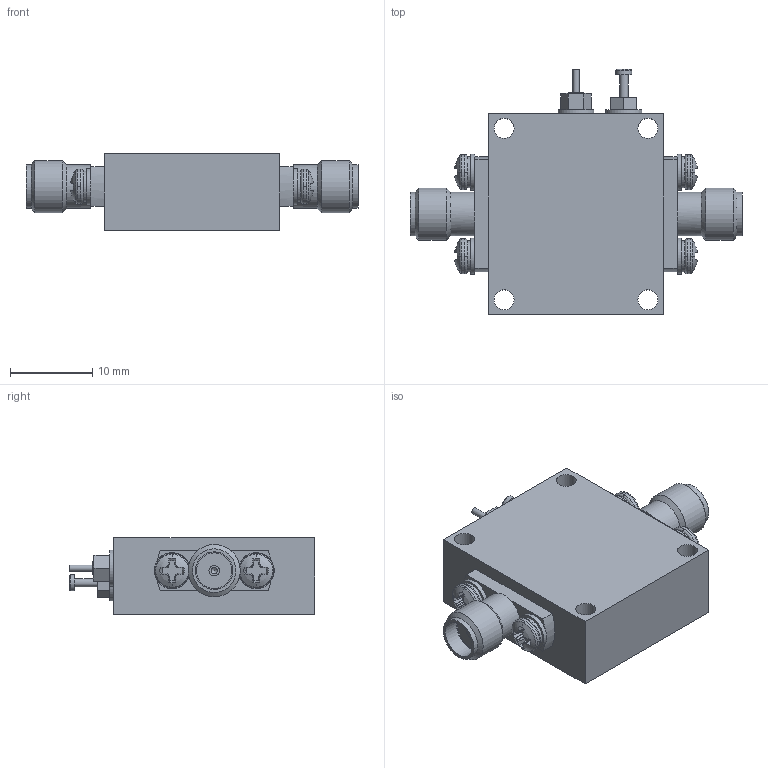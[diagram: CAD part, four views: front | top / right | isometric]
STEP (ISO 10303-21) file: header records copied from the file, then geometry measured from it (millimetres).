
FILE_DESCRIPTION(/* description */ (''),/* implementation_level */ '2;1');
FILE_NAME(/* name */ '\\UESVR4\Engineering\Engineering_Documentation_&_CAD\Source_&_Reference_Files_For_Engineering\Reference_File\3D_Step_Files\REFERENCE\AV2578_Rev_R-ZVA-403GX+\AV2578_Rev_R-ZVA-403GX+.step',/* time_stamp */ '2021-10-04T16:27:21+06:00',/* author */ ('Eugene'),/* organization */ (''),/* preprocessor_version */ 'ST-DEVELOPER v16.5',/* originating_system */ 'AutoCAD Mechanical',/* authorisation */ '');
FILE_SCHEMA (('AUTOMOTIVE_DESIGN { 1 0 10303 214 3 1 1 }'));
Length unit declared in the file: inch
Products named in the file (1): Product
Bounding box: 40.32 x 29.77 x 9.27 mm (x, y, z)
Volume: 5355.4 mm3; surface area: 2873.6 mm2
Topology: 2 solids, 2 shells, 269 faces, 702 edges, 460 vertices
Faces by surface type: plane 126, cylinder 91, cone 26, torus 17, sphere 9
Full cylindrical faces by diameter (mm): 0.762 x3, 1.016 x1, 1.27 x2, 1.905 x1, 2.438 x4, 3.785 x4, 4.318 x2, 4.369 x6, 4.572 x2, 5.293 x4, 6.333 x2
Entity records: 8110 total; most frequent: DIRECTION 1562, CARTESIAN_POINT 1358, ORIENTED_EDGE 1292, EDGE_CURVE 646, AXIS2_PLACEMENT_3D 646, VERTEX_POINT 442, EDGE_LOOP 338, CIRCLE 280
